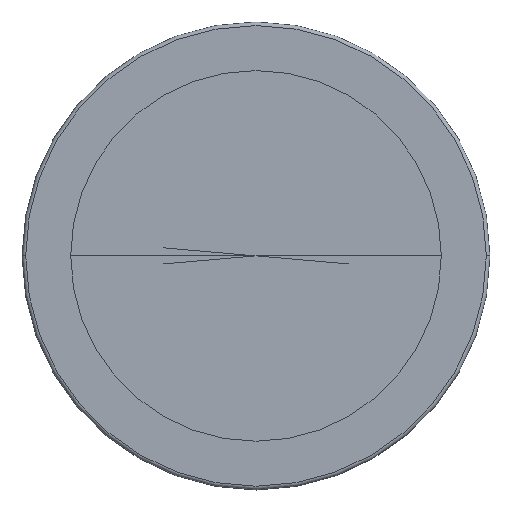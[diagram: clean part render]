
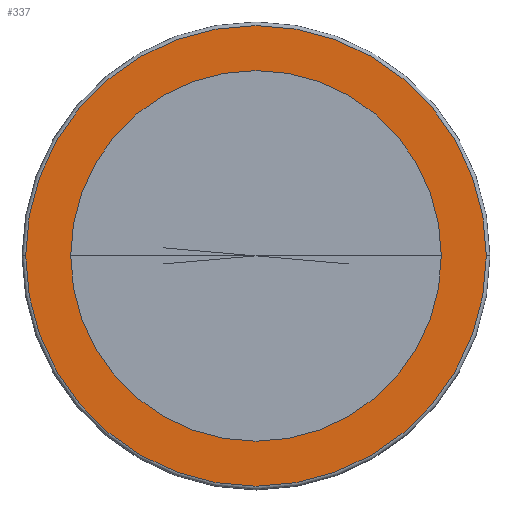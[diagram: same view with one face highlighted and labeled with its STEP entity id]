
A CAD part, top view. The second image highlights one B-rep face of the part: STEP entity #337.
In plain terms, the highlighted planar face has unit normal (0, 0, 1).
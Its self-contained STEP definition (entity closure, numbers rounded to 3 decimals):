
#9=CARTESIAN_POINT('',(0.,0.,2.178));
#10=DIRECTION('',(0.,0.,-1.));
#11=DIRECTION('',(1.,0.,0.));
#12=AXIS2_PLACEMENT_3D('',#9,#10,#11);
#14=CARTESIAN_POINT('',(0.,0.,2.178));
#15=DIRECTION('',(0.,0.,1.));
#16=DIRECTION('',(1.,0.,0.));
#17=AXIS2_PLACEMENT_3D('',#14,#15,#16);
#19=CARTESIAN_POINT('',(0.,0.,2.178));
#20=DIRECTION('',(0.,0.,-1.));
#21=DIRECTION('',(1.,0.,0.));
#22=AXIS2_PLACEMENT_3D('',#19,#20,#21);
#24=CARTESIAN_POINT('',(0.,0.,2.178));
#25=DIRECTION('',(0.,0.,-1.));
#26=DIRECTION('',(-1.,0.,0.));
#27=AXIS2_PLACEMENT_3D('',#24,#25,#26);
#256=CARTESIAN_POINT('',(2.575,0.,2.178));
#258=VERTEX_POINT('',#256);
#259=CARTESIAN_POINT('',(-2.575,0.,2.178));
#260=VERTEX_POINT('',#259);
#282=CARTESIAN_POINT('',(3.2,0.,2.178));
#283=CARTESIAN_POINT('',(-3.2,0.,2.178));
#284=VERTEX_POINT('',#282);
#285=VERTEX_POINT('',#283);
#322=CARTESIAN_POINT('',(0.,0.,2.178));
#323=DIRECTION('',(0.,0.,1.));
#324=DIRECTION('',(-1.,0.,0.));
#325=AXIS2_PLACEMENT_3D('',#322,#323,#324);
#326=PLANE('',#325);
#328=ORIENTED_EDGE('',*,*,#327,.T.);
#330=ORIENTED_EDGE('',*,*,#329,.T.);
#331=EDGE_LOOP('',(#328,#330));
#332=FACE_OUTER_BOUND('',#331,.F.);
#333=ORIENTED_EDGE('',*,*,#316,.F.);
#334=ORIENTED_EDGE('',*,*,#300,.T.);
#335=EDGE_LOOP('',(#333,#334));
#336=FACE_BOUND('',#335,.F.);
#337=ADVANCED_FACE('',(#332,#336),#326,.T.);
#13=CIRCLE('',#12,2.575);
#18=CIRCLE('',#17,2.575);
#23=CIRCLE('',#22,3.2);
#28=CIRCLE('',#27,3.2);
#300=EDGE_CURVE('',#258,#260,#18,.T.);
#316=EDGE_CURVE('',#258,#260,#13,.T.);
#327=EDGE_CURVE('',#284,#285,#23,.T.);
#329=EDGE_CURVE('',#285,#284,#28,.T.);
